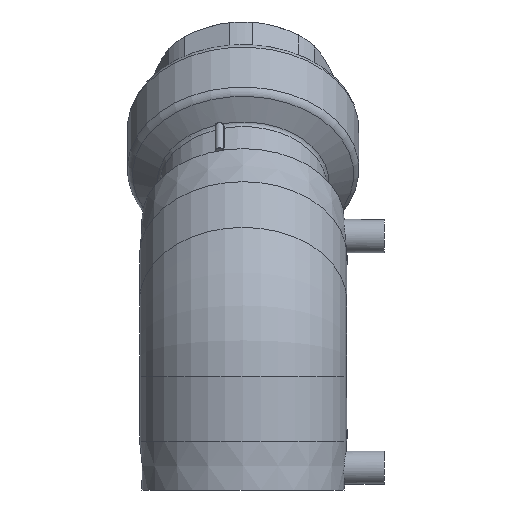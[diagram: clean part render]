
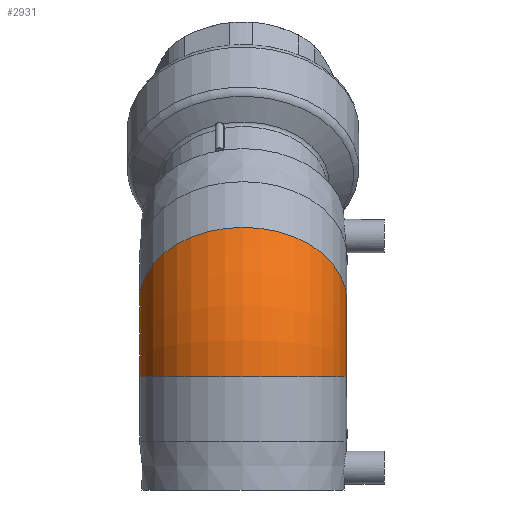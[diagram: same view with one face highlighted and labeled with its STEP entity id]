
A CAD part, left-side view. The second image highlights one B-rep face of the part: STEP entity #2931.
In plain terms, the highlighted toroidal (fillet/blend) face has major radius 48.284 mm and minor radius 46.5 mm.
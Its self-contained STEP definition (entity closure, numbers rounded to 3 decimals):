
#384=TOROIDAL_SURFACE('',#3718,48.284,46.5);
#546=ORIENTED_EDGE('',*,*,#1372,.F.);
#547=ORIENTED_EDGE('',*,*,#1371,.T.);
#1371=EDGE_CURVE('',#1789,#1789,#2076,.F.);
#1372=EDGE_CURVE('',#1790,#1790,#2077,.F.);
#1789=VERTEX_POINT('',#5125);
#1790=VERTEX_POINT('',#5128);
#2076=CIRCLE('',#3717,46.5);
#2077=CIRCLE('',#3719,46.5);
#2288=EDGE_LOOP('',(#546));
#2289=EDGE_LOOP('',(#547));
#2563=FACE_BOUND('',#2288,.T.);
#2564=FACE_BOUND('',#2289,.T.);
#2931=ADVANCED_FACE('',(#2563,#2564),#384,.T.);
#3717=AXIS2_PLACEMENT_3D('',#5124,#4132,#4133);
#3718=AXIS2_PLACEMENT_3D('',#5126,#4134,#4135);
#3719=AXIS2_PLACEMENT_3D('',#5127,#4136,#4137);
#4132=DIRECTION('',(0.,0.,-1.));
#4133=DIRECTION('',(1.,0.,0.));
#4134=DIRECTION('',(0.,1.,0.));
#4135=DIRECTION('',(0.,0.,1.));
#4136=DIRECTION('',(-0.707,0.,-0.707));
#4137=DIRECTION('',(0.707,0.,-0.707));
#5124=CARTESIAN_POINT('',(0.,0.,-20.));
#5125=CARTESIAN_POINT('',(46.5,0.,-20.));
#5126=CARTESIAN_POINT('',(48.284,0.,-20.));
#5127=CARTESIAN_POINT('',(14.142,0.,14.142));
#5128=CARTESIAN_POINT('',(47.023,0.,-18.738));
